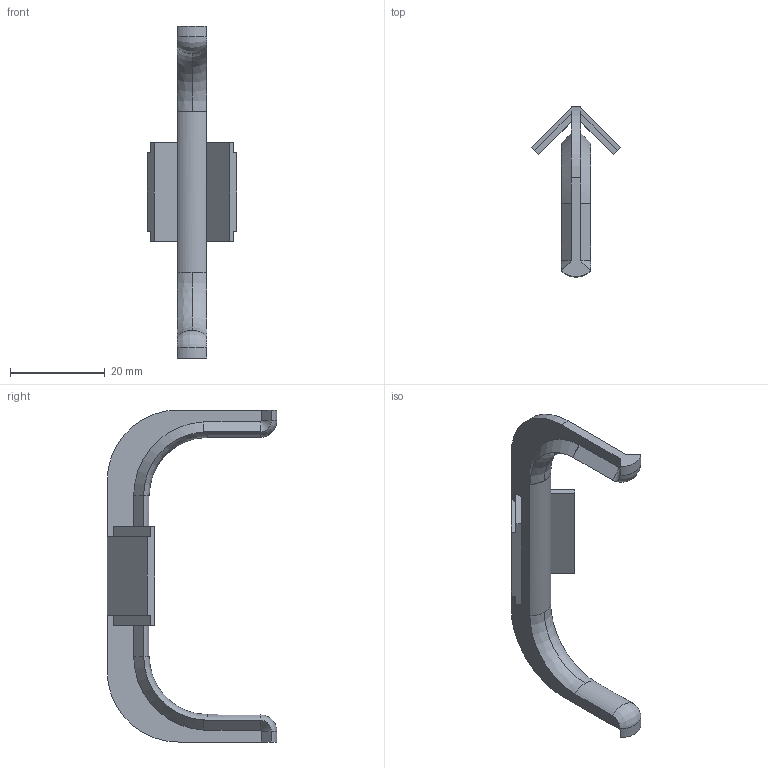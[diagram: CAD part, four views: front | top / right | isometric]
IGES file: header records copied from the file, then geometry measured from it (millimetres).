
Start section: Data from Parasolid IGES Translator 15.0.47, Copyright(c) 2006 Siemens P LM Software. All Rights Reserved.
Global section: file name: 9210133.igs; native system:  By UGS Corp.; preprocessor: XPlus GENERIC/IGES 3.0; author: Noname; organization: Noname; date: 20160314.174642; units: millimetre
Bounding box: 18.97 x 35.79 x 70 mm (x, y, z)
Surface area: 3703.6 mm2 (no closed solid volume)
Topology: 0 solids, 0 shells, 69 faces, 360 edges, 360 vertices
Faces by surface type: extrusion 43, revolution 26
